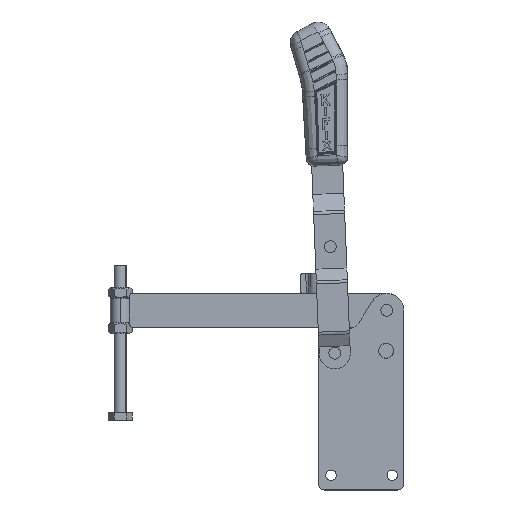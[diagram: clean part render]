
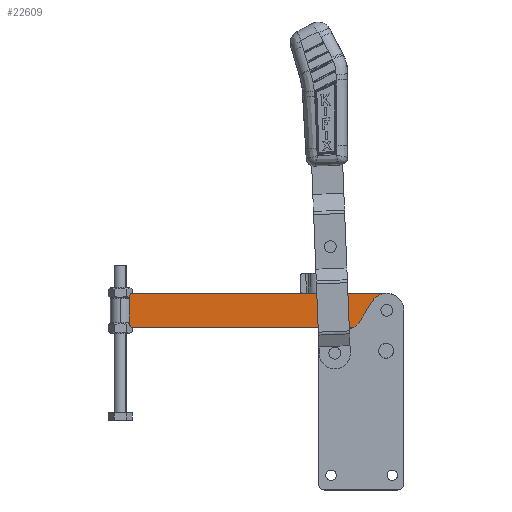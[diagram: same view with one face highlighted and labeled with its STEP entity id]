
A CAD part, top view. The second image highlights one B-rep face of the part: STEP entity #22609.
In plain terms, the highlighted planar face has unit normal (0, 0, 1).
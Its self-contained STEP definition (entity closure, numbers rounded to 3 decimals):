
#319 = DIRECTION ( 'NONE',  ( 0., 0., 1. ) ) ;
#526 = ORIENTED_EDGE ( 'NONE', *, *, #5633, .T. ) ;
#773 = DIRECTION ( 'NONE',  ( 1., 0., 0. ) ) ;
#1146 = CIRCLE ( 'NONE', #22018, 2. ) ;
#1171 = DIRECTION ( 'NONE',  ( 1., 0., 0. ) ) ;
#1383 = CARTESIAN_POINT ( 'NONE',  ( -14., -14., 0. ) ) ;
#1553 = ORIENTED_EDGE ( 'NONE', *, *, #3161, .F. ) ;
#1696 = AXIS2_PLACEMENT_3D ( 'NONE', #10672, #23920, #12595 ) ;
#1824 = ORIENTED_EDGE ( 'NONE', *, *, #13902, .F. ) ;
#2165 = LINE ( 'NONE', #4240, #12284 ) ;
#2241 = VERTEX_POINT ( 'NONE', #2599 ) ;
#2251 = CARTESIAN_POINT ( 'NONE',  ( -224., -12., 0. ) ) ;
#2279 = CIRCLE ( 'NONE', #6620, 4. ) ;
#2572 = CARTESIAN_POINT ( 'NONE',  ( -14., 0., 0. ) ) ;
#2599 = CARTESIAN_POINT ( 'NONE',  ( -224., -12., 0. ) ) ;
#2776 = EDGE_CURVE ( 'NONE', #4970, #22658, #16513, .T. ) ;
#3161 = EDGE_CURVE ( 'NONE', #23769, #17309, #2279, .T. ) ;
#3177 = DIRECTION ( 'NONE',  ( 1., 0., 0. ) ) ;
#3471 = CARTESIAN_POINT ( 'NONE',  ( 0., 0., 0. ) ) ;
#3531 = CARTESIAN_POINT ( 'NONE',  ( -14., 0., 0. ) ) ;
#3969 = VECTOR ( 'NONE', #17448, 1000. ) ;
#4240 = CARTESIAN_POINT ( 'NONE',  ( -14., 14., 0. ) ) ;
#4481 = DIRECTION ( 'NONE',  ( 1., 0., 0. ) ) ;
#4970 = VERTEX_POINT ( 'NONE', #24155 ) ;
#5264 = DIRECTION ( 'NONE',  ( 0., 0., 1. ) ) ;
#5633 = EDGE_CURVE ( 'NONE', #16056, #6343, #1146, .T. ) ;
#5723 = FACE_BOUND ( 'NONE', #11103, .T. ) ;
#6001 = ORIENTED_EDGE ( 'NONE', *, *, #18317, .F. ) ;
#6343 = VERTEX_POINT ( 'NONE', #8356 ) ;
#6345 = ORIENTED_EDGE ( 'NONE', *, *, #8112, .T. ) ;
#6401 = PLANE ( 'NONE',  #6697 ) ;
#6573 = DIRECTION ( 'NONE',  ( 0., 0., 1. ) ) ;
#6620 = AXIS2_PLACEMENT_3D ( 'NONE', #16618, #5264, #18536 ) ;
#6697 = AXIS2_PLACEMENT_3D ( 'NONE', #21508, #12155, #773 ) ;
#7002 = CARTESIAN_POINT ( 'NONE',  ( -14., 14., 0. ) ) ;
#7236 = ORIENTED_EDGE ( 'NONE', *, *, #11803, .T. ) ;
#7497 = ORIENTED_EDGE ( 'NONE', *, *, #8706, .T. ) ;
#7925 = VECTOR ( 'NONE', #3177, 1000. ) ;
#7976 = ORIENTED_EDGE ( 'NONE', *, *, #12706, .T. ) ;
#8112 = EDGE_CURVE ( 'NONE', #13977, #12683, #18017, .T. ) ;
#8356 = CARTESIAN_POINT ( 'NONE',  ( -224., 12., 0. ) ) ;
#8706 = EDGE_CURVE ( 'NONE', #12683, #11616, #19775, .T. ) ;
#9634 = LINE ( 'NONE', #2251, #3969 ) ;
#9905 = ORIENTED_EDGE ( 'NONE', *, *, #2776, .F. ) ;
#10166 = CARTESIAN_POINT ( 'NONE',  ( -56., 0., 0. ) ) ;
#10181 = FACE_OUTER_BOUND ( 'NONE', #24299, .T. ) ;
#10672 = CARTESIAN_POINT ( 'NONE',  ( -14., 0., 0. ) ) ;
#11061 = EDGE_LOOP ( 'NONE', ( #1824, #1553 ) ) ;
#11103 = EDGE_LOOP ( 'NONE', ( #6001, #9905 ) ) ;
#11139 = CIRCLE ( 'NONE', #21591, 2. ) ;
#11208 = CIRCLE ( 'NONE', #1696, 4. ) ;
#11616 = VERTEX_POINT ( 'NONE', #3471 ) ;
#11675 = CARTESIAN_POINT ( 'NONE',  ( -52., 0., 0. ) ) ;
#11710 = CARTESIAN_POINT ( 'NONE',  ( -222., 12., 0. ) ) ;
#11803 = EDGE_CURVE ( 'NONE', #6343, #2241, #9634, .T. ) ;
#11957 = CIRCLE ( 'NONE', #19884, 4. ) ;
#12089 = DIRECTION ( 'NONE',  ( 1., 0., 0. ) ) ;
#12155 = DIRECTION ( 'NONE',  ( 0., 0., 1. ) ) ;
#12284 = VECTOR ( 'NONE', #17527, 1000. ) ;
#12322 = CARTESIAN_POINT ( 'NONE',  ( -10., 0., 0. ) ) ;
#12564 = DIRECTION ( 'NONE',  ( 0., 0., 1. ) ) ;
#12595 = DIRECTION ( 'NONE',  ( 1., 0., 0. ) ) ;
#12683 = VERTEX_POINT ( 'NONE', #21087 ) ;
#12706 = EDGE_CURVE ( 'NONE', #17916, #16056, #2165, .T. ) ;
#12726 = ORIENTED_EDGE ( 'NONE', *, *, #20583, .T. ) ;
#13107 = CARTESIAN_POINT ( 'NONE',  ( -222., 14., 0. ) ) ;
#13568 = DIRECTION ( 'NONE',  ( 0., 0., 1. ) ) ;
#13615 = DIRECTION ( 'NONE',  ( 1., 0., 0. ) ) ;
#13902 = EDGE_CURVE ( 'NONE', #17309, #23769, #11957, .T. ) ;
#13977 = VERTEX_POINT ( 'NONE', #14149 ) ;
#14149 = CARTESIAN_POINT ( 'NONE',  ( -222., -14., 0. ) ) ;
#14303 = AXIS2_PLACEMENT_3D ( 'NONE', #2572, #15872, #4481 ) ;
#14660 = ORIENTED_EDGE ( 'NONE', *, *, #23462, .T. ) ;
#15214 = CARTESIAN_POINT ( 'NONE',  ( -60., 0., 0. ) ) ;
#15244 = FACE_BOUND ( 'NONE', #11061, .T. ) ;
#15872 = DIRECTION ( 'NONE',  ( 0., 0., 1. ) ) ;
#16056 = VERTEX_POINT ( 'NONE', #13107 ) ;
#16175 = DIRECTION ( 'NONE',  ( 1., 0., 0. ) ) ;
#16513 = CIRCLE ( 'NONE', #22836, 4. ) ;
#16618 = CARTESIAN_POINT ( 'NONE',  ( -56., 0., 0. ) ) ;
#16735 = AXIS2_PLACEMENT_3D ( 'NONE', #17945, #6573, #19844 ) ;
#17309 = VERTEX_POINT ( 'NONE', #11675 ) ;
#17448 = DIRECTION ( 'NONE',  ( 0., -1., 0. ) ) ;
#17527 = DIRECTION ( 'NONE',  ( -1., 0., 0. ) ) ;
#17916 = VERTEX_POINT ( 'NONE', #7002 ) ;
#17945 = CARTESIAN_POINT ( 'NONE',  ( -14., 0., 0. ) ) ;
#18017 = LINE ( 'NONE', #1383, #7925 ) ;
#18317 = EDGE_CURVE ( 'NONE', #22658, #4970, #11208, .T. ) ;
#18438 = CIRCLE ( 'NONE', #16735, 14. ) ;
#18536 = DIRECTION ( 'NONE',  ( 1., 0., 0. ) ) ;
#19775 = CIRCLE ( 'NONE', #14303, 14. ) ;
#19844 = DIRECTION ( 'NONE',  ( 1., 0., 0. ) ) ;
#19884 = AXIS2_PLACEMENT_3D ( 'NONE', #10166, #23422, #12089 ) ;
#20583 = EDGE_CURVE ( 'NONE', #2241, #13977, #11139, .T. ) ;
#21087 = CARTESIAN_POINT ( 'NONE',  ( -14., -14., 0. ) ) ;
#21508 = CARTESIAN_POINT ( 'NONE',  ( -14., 0., 0. ) ) ;
#21591 = AXIS2_PLACEMENT_3D ( 'NONE', #23897, #12564, #1171 ) ;
#22018 = AXIS2_PLACEMENT_3D ( 'NONE', #11710, #319, #13615 ) ;
#22609 = ADVANCED_FACE ( 'NONE', ( #15244, #5723, #10181 ), #6401, .T. ) ;
#22658 = VERTEX_POINT ( 'NONE', #12322 ) ;
#22836 = AXIS2_PLACEMENT_3D ( 'NONE', #3531, #13568, #16175 ) ;
#23422 = DIRECTION ( 'NONE',  ( 0., 0., 1. ) ) ;
#23462 = EDGE_CURVE ( 'NONE', #11616, #17916, #18438, .T. ) ;
#23769 = VERTEX_POINT ( 'NONE', #15214 ) ;
#23897 = CARTESIAN_POINT ( 'NONE',  ( -222., -12., 0. ) ) ;
#23920 = DIRECTION ( 'NONE',  ( 0., 0., 1. ) ) ;
#24155 = CARTESIAN_POINT ( 'NONE',  ( -18., 0., 0. ) ) ;
#24299 = EDGE_LOOP ( 'NONE', ( #7497, #14660, #7976, #526, #7236, #12726, #6345 ) ) ;
